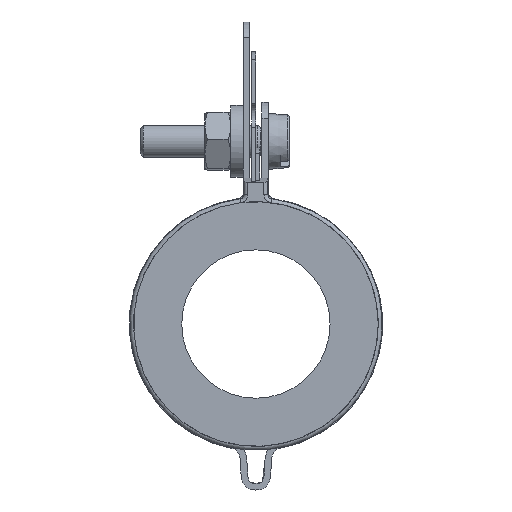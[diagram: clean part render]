
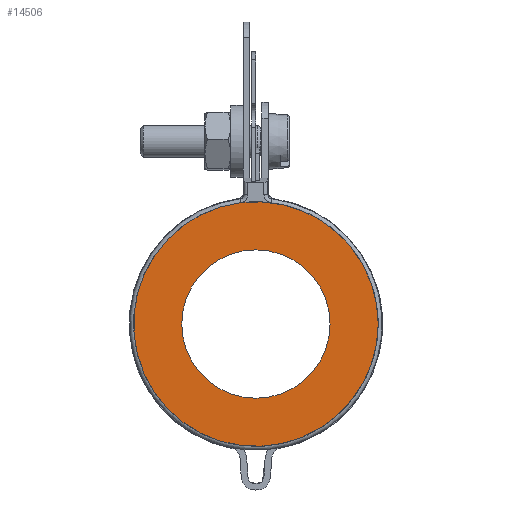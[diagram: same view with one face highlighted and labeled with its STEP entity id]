
A CAD part, front view. The second image highlights one B-rep face of the part: STEP entity #14506.
In plain terms, the highlighted planar face has unit normal (0, -1, 0).
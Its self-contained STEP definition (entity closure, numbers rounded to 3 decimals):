
#278=FACE_BOUND($,#2892,.T.);
#1126=CIRCLE($,#15837,15.25);
#1131=CIRCLE($,#15979,9.25);
#1915=FACE_OUTER_BOUND($,#2891,.T.);
#2891=EDGE_LOOP($,(#12236));
#2892=EDGE_LOOP($,(#12237));
#6539=VERTEX_POINT($,#24254);
#6550=VERTEX_POINT($,#24417);
#8434=EDGE_CURVE($,#6539,#6539,#1126,.T.);
#8449=EDGE_CURVE($,#6550,#6550,#1131,.T.);
#12236=ORIENTED_EDGE($,*,*,#8434,.T.);
#12237=ORIENTED_EDGE($,*,*,#8449,.T.);
#12903=PLANE($,#15982);
#14506=ADVANCED_FACE($,(#1915,#278),#12903,.T.);
#15837=AXIS2_PLACEMENT_3D($,#24255,#19795,#19796);
#15979=AXIS2_PLACEMENT_3D($,#24418,#20089,#20090);
#15982=AXIS2_PLACEMENT_3D($,#24421,#20095,#20096);
#19795=DIRECTION('center_axis',(0.,-1.,0.));
#19796=DIRECTION('ref_axis',(-1.,0.,0.));
#20089=DIRECTION('center_axis',(0.,1.,0.));
#20090=DIRECTION('ref_axis',(1.,0.,0.));
#20095=DIRECTION('center_axis',(0.,-1.,0.));
#20096=DIRECTION('ref_axis',(0.,0.,-1.));
#24254=CARTESIAN_POINT('',(15.25,0.,0.));
#24255=CARTESIAN_POINT('Origin',(0.,0.,0.));
#24417=CARTESIAN_POINT('',(-9.25,0.,0.));
#24418=CARTESIAN_POINT('Origin',(0.,0.,0.));
#24421=CARTESIAN_POINT('Origin',(0.,0.,0.));
